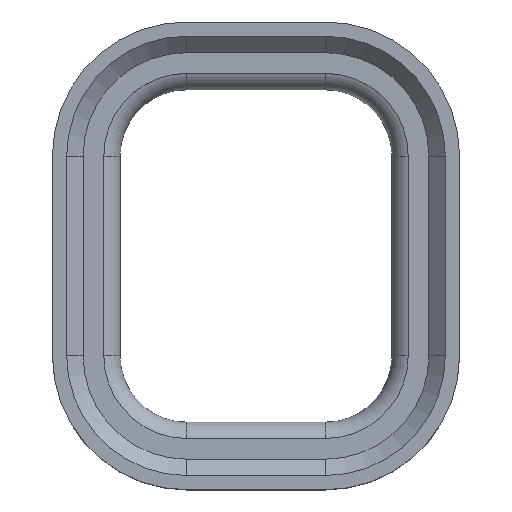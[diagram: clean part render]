
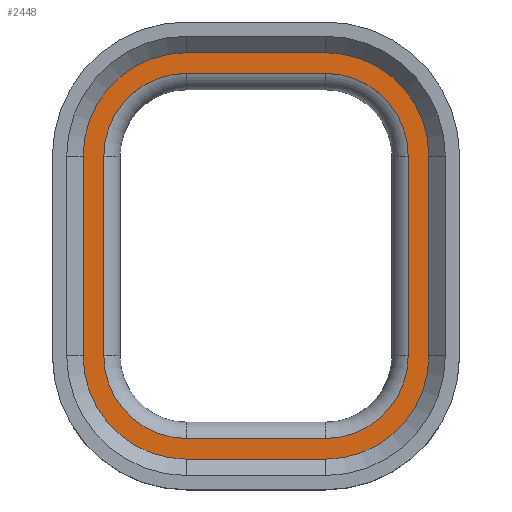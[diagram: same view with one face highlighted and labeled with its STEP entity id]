
A CAD part, top view. The second image highlights one B-rep face of the part: STEP entity #2448.
In plain terms, the highlighted planar face has unit normal (0, 0, 1).
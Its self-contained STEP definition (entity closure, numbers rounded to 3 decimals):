
#272=DIRECTION('',(1.,0.,0.));
#273=VECTOR('',#272,4.953);
#274=CARTESIAN_POINT('',(-2.477,-7.239,-0.572));
#275=LINE('',#274,#273);
#280=CARTESIAN_POINT('',(-2.477,-3.556,-0.572));
#281=DIRECTION('',(0.,0.,1.));
#282=DIRECTION('',(-1.,0.,0.));
#283=AXIS2_PLACEMENT_3D('',#280,#281,#282);
#293=DIRECTION('',(0.,-1.,0.));
#294=VECTOR('',#293,7.112);
#295=CARTESIAN_POINT('',(-6.16,3.556,-0.572));
#296=LINE('',#295,#294);
#301=CARTESIAN_POINT('',(-2.477,3.556,-0.572));
#302=DIRECTION('',(0.,0.,1.));
#303=DIRECTION('',(0.,1.,0.));
#304=AXIS2_PLACEMENT_3D('',#301,#302,#303);
#310=DIRECTION('',(-1.,0.,0.));
#311=VECTOR('',#310,4.953);
#312=CARTESIAN_POINT('',(2.477,7.239,-0.572));
#313=LINE('',#312,#311);
#318=CARTESIAN_POINT('',(2.477,3.556,-0.572));
#319=DIRECTION('',(0.,0.,1.));
#320=DIRECTION('',(1.,0.,0.));
#321=AXIS2_PLACEMENT_3D('',#318,#319,#320);
#327=DIRECTION('',(0.,1.,0.));
#328=VECTOR('',#327,7.112);
#329=CARTESIAN_POINT('',(6.16,-3.556,-0.572));
#330=LINE('',#329,#328);
#335=CARTESIAN_POINT('',(2.477,-3.556,-0.572));
#336=DIRECTION('',(0.,0.,1.));
#337=DIRECTION('',(0.,-1.,0.));
#338=AXIS2_PLACEMENT_3D('',#335,#336,#337);
#340=DIRECTION('',(1.,0.,0.));
#341=VECTOR('',#340,4.953);
#342=CARTESIAN_POINT('',(-2.477,-6.502,-0.572));
#343=LINE('',#342,#341);
#344=CARTESIAN_POINT('',(2.477,-3.556,-0.572));
#345=DIRECTION('',(0.,0.,1.));
#346=DIRECTION('',(0.,-1.,0.));
#347=AXIS2_PLACEMENT_3D('',#344,#345,#346);
#349=DIRECTION('',(0.,1.,0.));
#350=VECTOR('',#349,7.112);
#351=CARTESIAN_POINT('',(5.423,-3.556,-0.572));
#352=LINE('',#351,#350);
#353=CARTESIAN_POINT('',(2.477,3.556,-0.572));
#354=DIRECTION('',(0.,0.,1.));
#355=DIRECTION('',(1.,0.,0.));
#356=AXIS2_PLACEMENT_3D('',#353,#354,#355);
#358=DIRECTION('',(-1.,0.,0.));
#359=VECTOR('',#358,4.953);
#360=CARTESIAN_POINT('',(2.477,6.502,-0.572));
#361=LINE('',#360,#359);
#362=CARTESIAN_POINT('',(-2.477,3.556,-0.572));
#363=DIRECTION('',(0.,0.,1.));
#364=DIRECTION('',(0.,1.,0.));
#365=AXIS2_PLACEMENT_3D('',#362,#363,#364);
#367=DIRECTION('',(0.,-1.,0.));
#368=VECTOR('',#367,7.112);
#369=CARTESIAN_POINT('',(-5.423,3.556,-0.572));
#370=LINE('',#369,#368);
#371=CARTESIAN_POINT('',(-2.477,-3.556,-0.572));
#372=DIRECTION('',(0.,0.,1.));
#373=DIRECTION('',(-1.,0.,0.));
#374=AXIS2_PLACEMENT_3D('',#371,#372,#373);
#1731=CARTESIAN_POINT('',(-2.477,-6.502,-0.572));
#1732=VERTEX_POINT('',#1731);
#1733=CARTESIAN_POINT('',(-2.477,-7.239,-0.572));
#1735=VERTEX_POINT('',#1733);
#1751=CARTESIAN_POINT('',(2.477,-6.502,-0.572));
#1752=VERTEX_POINT('',#1751);
#1753=CARTESIAN_POINT('',(2.477,-7.239,-0.572));
#1755=VERTEX_POINT('',#1753);
#1779=CARTESIAN_POINT('',(5.423,-3.556,-0.572));
#1780=VERTEX_POINT('',#1779);
#1781=CARTESIAN_POINT('',(6.16,-3.556,-0.572));
#1783=VERTEX_POINT('',#1781);
#1803=CARTESIAN_POINT('',(5.423,3.556,-0.572));
#1804=VERTEX_POINT('',#1803);
#1805=CARTESIAN_POINT('',(6.16,3.556,-0.572));
#1807=VERTEX_POINT('',#1805);
#1827=CARTESIAN_POINT('',(2.477,6.502,-0.572));
#1828=VERTEX_POINT('',#1827);
#1829=CARTESIAN_POINT('',(2.477,7.239,-0.572));
#1831=VERTEX_POINT('',#1829);
#1851=CARTESIAN_POINT('',(-2.477,6.502,-0.572));
#1852=VERTEX_POINT('',#1851);
#1853=CARTESIAN_POINT('',(-2.477,7.239,-0.572));
#1855=VERTEX_POINT('',#1853);
#1875=CARTESIAN_POINT('',(-5.423,3.556,-0.572));
#1876=VERTEX_POINT('',#1875);
#1877=CARTESIAN_POINT('',(-6.16,3.556,-0.572));
#1879=VERTEX_POINT('',#1877);
#1899=CARTESIAN_POINT('',(-5.423,-3.556,-0.572));
#1900=VERTEX_POINT('',#1899);
#1901=CARTESIAN_POINT('',(-6.16,-3.556,-0.572));
#1903=VERTEX_POINT('',#1901);
#2415=CARTESIAN_POINT('',(-2.477,-6.502,-0.572));
#2416=DIRECTION('',(0.,0.,1.));
#2417=DIRECTION('',(0.,-1.,0.));
#2418=AXIS2_PLACEMENT_3D('',#2415,#2416,#2417);
#2419=PLANE('',#2418);
#2420=ORIENTED_EDGE('',*,*,#2325,.F.);
#2421=ORIENTED_EDGE('',*,*,#2339,.F.);
#2422=ORIENTED_EDGE('',*,*,#2353,.F.);
#2423=ORIENTED_EDGE('',*,*,#2367,.F.);
#2424=ORIENTED_EDGE('',*,*,#2381,.F.);
#2425=ORIENTED_EDGE('',*,*,#2395,.F.);
#2426=ORIENTED_EDGE('',*,*,#2408,.F.);
#2427=ORIENTED_EDGE('',*,*,#2310,.F.);
#2428=EDGE_LOOP('',(#2420,#2421,#2422,#2423,#2424,#2425,#2426,#2427));
#2429=FACE_OUTER_BOUND('',#2428,.F.);
#2431=ORIENTED_EDGE('',*,*,#2430,.T.);
#2433=ORIENTED_EDGE('',*,*,#2432,.T.);
#2435=ORIENTED_EDGE('',*,*,#2434,.T.);
#2437=ORIENTED_EDGE('',*,*,#2436,.T.);
#2439=ORIENTED_EDGE('',*,*,#2438,.T.);
#2441=ORIENTED_EDGE('',*,*,#2440,.T.);
#2443=ORIENTED_EDGE('',*,*,#2442,.T.);
#2445=ORIENTED_EDGE('',*,*,#2444,.T.);
#2446=EDGE_LOOP('',(#2431,#2433,#2435,#2437,#2439,#2441,#2443,#2445));
#2447=FACE_BOUND('',#2446,.F.);
#2448=ADVANCED_FACE('',(#2429,#2447),#2419,.T.);
#284=CIRCLE('',#283,3.683);
#305=CIRCLE('',#304,3.683);
#322=CIRCLE('',#321,3.683);
#339=CIRCLE('',#338,3.683);
#348=CIRCLE('',#347,2.946);
#357=CIRCLE('',#356,2.946);
#366=CIRCLE('',#365,2.946);
#375=CIRCLE('',#374,2.946);
#2310=EDGE_CURVE('',#1735,#1755,#275,.T.);
#2325=EDGE_CURVE('',#1903,#1735,#284,.T.);
#2339=EDGE_CURVE('',#1879,#1903,#296,.T.);
#2353=EDGE_CURVE('',#1855,#1879,#305,.T.);
#2367=EDGE_CURVE('',#1831,#1855,#313,.T.);
#2381=EDGE_CURVE('',#1807,#1831,#322,.T.);
#2395=EDGE_CURVE('',#1783,#1807,#330,.T.);
#2408=EDGE_CURVE('',#1755,#1783,#339,.T.);
#2430=EDGE_CURVE('',#1732,#1752,#343,.T.);
#2432=EDGE_CURVE('',#1752,#1780,#348,.T.);
#2434=EDGE_CURVE('',#1780,#1804,#352,.T.);
#2436=EDGE_CURVE('',#1804,#1828,#357,.T.);
#2438=EDGE_CURVE('',#1828,#1852,#361,.T.);
#2440=EDGE_CURVE('',#1852,#1876,#366,.T.);
#2442=EDGE_CURVE('',#1876,#1900,#370,.T.);
#2444=EDGE_CURVE('',#1900,#1732,#375,.T.);
